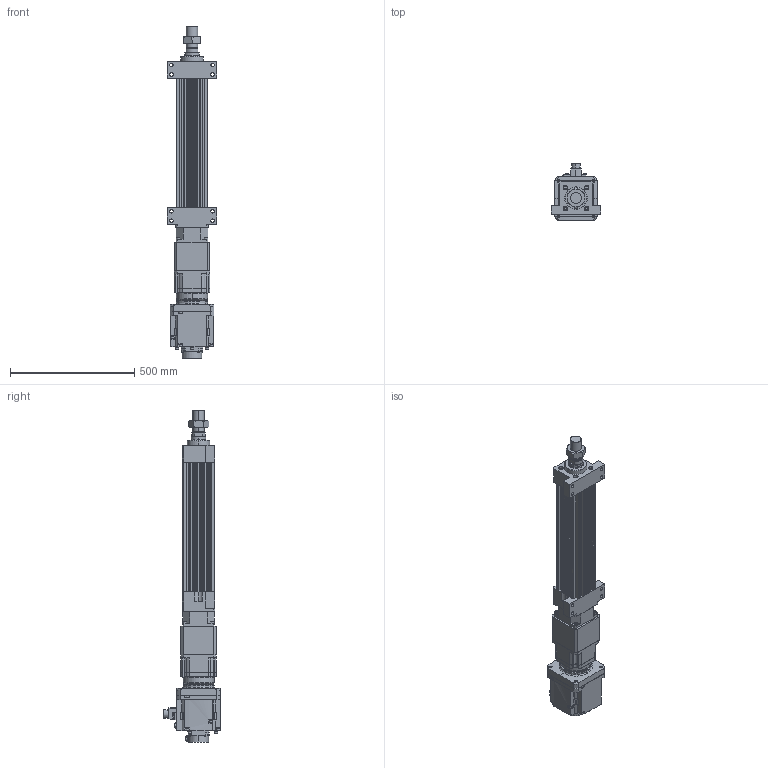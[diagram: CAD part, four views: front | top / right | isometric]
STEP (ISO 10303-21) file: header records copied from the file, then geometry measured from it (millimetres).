
FILE_DESCRIPTION (( 'STEP AP203' ), '1' );
FILE_NAME ('HES130NS(FS)(HS)-S300-W020G00-M-FFB.STEP', '2026-06-10T06:15:25', ( 'tms' ), ( '' ), 'SwSTEP 2.0', 'SolidWorks 2013', '' );
FILE_SCHEMA (( 'CONFIG_CONTROL_DESIGN' ));
Length unit declared in the file: millimetre
Products named in the file (9): M45X1.5P; HG-SR202B; AB1421; HES130-FFB-300; HES130-S-G142; HES130-M-ROD-300; HES130NS(FS)(HS)-S300-W020G00-M-FFB; AB1423; AB1422
Assembly tree (8 placements, depth 2):
  HES130NS(FS)(HS)-S300-W020G00-M-FFB
    HES130-FFB-300
    HES130-M-ROD-300
    M45X1.5P
    HES130-S-G142
    AB1421
    AB1422
    AB1423
    HG-SR202B
Bounding box: 200 x 228.85 x 1335 mm (x, y, z)
Volume: 12873649.4 mm3; surface area: 1516759.6 mm2
Topology: 5 solids, 19 shells, 1547 faces, 4010 edges, 2610 vertices
Faces by surface type: cylinder 694, plane 619, cone 152, bspline 76, torus 6
Entity records: 56386 total; most frequent: CARTESIAN_POINT 16969, DIRECTION 8246, ORIENTED_EDGE 7946, EDGE_CURVE 3995, AXIS2_PLACEMENT_3D 3104, VERTEX_POINT 2610, VECTOR 2038, LINE 2038
